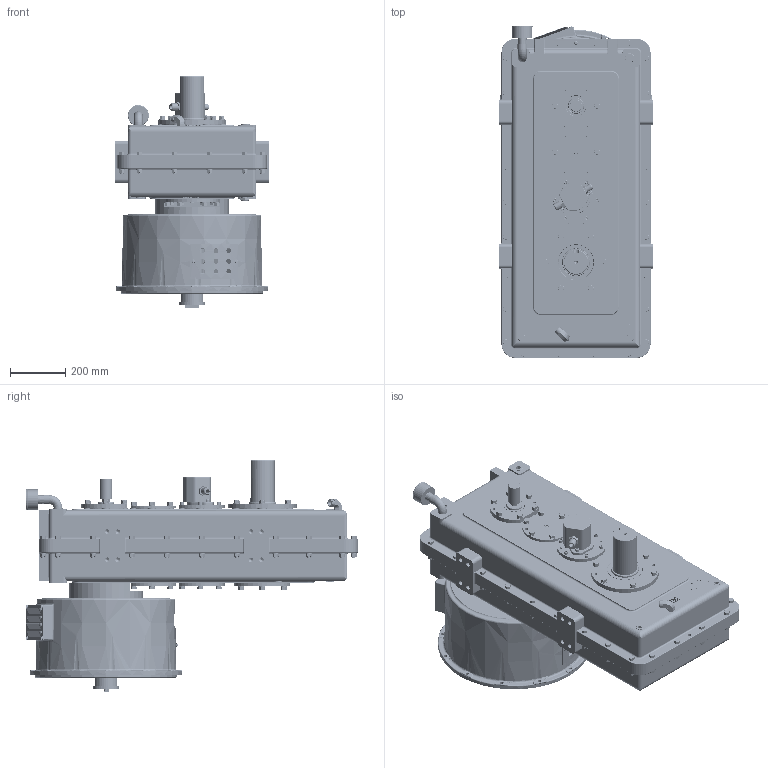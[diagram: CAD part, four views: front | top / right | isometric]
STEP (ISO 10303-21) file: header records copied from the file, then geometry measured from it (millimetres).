
FILE_DESCRIPTION (( 'STEP AP214' ), '1' );
FILE_NAME ('D170A181005.STEP', '2022-03-11T15:46:05', ( '' ), ( '' ), 'SwSTEP 2.0', 'SolidWorks 2021', '' );
FILE_SCHEMA (( 'AUTOMOTIVE_DESIGN' ));
Length unit declared in the file: inch
Products named in the file (61): DS90081A106.stp; NP266409-1.stp; DWL_50X1_25.stp; SR5100-231.stp; HHCSZ_50-13X1_25.stp; SHK22005.stp; PPSKG1_00-11_5.stp; D170043.stp; D170042.stp; RD144003_AF0.stp; d170a181005 rev 01.stp; PPSKM_75-14.stp; SHK22020.stp; HA-6-6-6-11_25.stp; D17-1-A-14_ASM.stp; PPSKG_50-14.stp; AVBF-16.stp; D170030.stp; ME12-CTX-S.stp; HHCSZ_63-11X1_75.stp; OS2_250X2_875-2.stp; SHCS_38-16X1_00.stp; D170011.stp; STC12-F5OX-S.stp; D170001B.stp; D181011.stp; D170A181005; CL-W15-OC-306.stp; HHCSZ_50-13X2_75.stp; SHK22007.stp; SHCS_50-13X2_25.stp; D144037.stp; LWZ_63.stp; LPPGP505-10CW.stp; D170013.stp; OS3_938X4_999-2.stp; SHK22920.stp; PTC6-6FTX-S.stp; D170009.stp; HHCSZ_38-16X_75.stp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
Assembly tree (274 placements, depth 4):
  D170A181005
    d170a181005 rev 01.stp
      D17-1-A-14_ASM.stp
        RD144003_AF0.stp
        D17-1-A-14_ASM-0.stp
      D170001.stp
      CL-W15-OC-306.stp
      HA-12-12-12-28.stp
      HA-6-6-6-11_25.stp  x2
      DWL_50X1_25.stp  x2
      D170009.stp
      D170042.stp
      PTC6-6FTX-S.stp  x2
      SR5100-231.stp
      D170011.stp  x3
      D170013.stp
      D170046.stp
      D170001B.stp
      D170010.stp
      LWZ_50.stp  x62
      HHCSZ_50-13X1_25.stp  x24
      D144102.stp
      ME12-CTX-S.stp
      RHSKCS_25-20X_50.stp  x6
      STEL1_00NPT90.stp
      AVBF-16.stp
      PPSKG1_00-11_5.stp  x3
      D144037.stp
      SG_75NPT-01.stp
      HHCSZ_50-13X1_50.stp  x12
      HNZ_50-13.stp  x26
      HHCSZ_50-13X2_75.stp  x26
      OS2_250X2_875-2.stp
      OS3_938X4_999-2.stp  x2
      PPSKG_25-18.stp
      SHCS_50-13X2_25.stp  x6
      LWZ_63.stp  x6
      HHCSZ_63-11X1_75.stp  x5
      PPSKM_75-14.stp  x2
      NP266409-1.stp
      DS90081A106.stp  x2
      SHK22020.stp  x9
      SHK22007.stp  x9
      SHK22005.stp  x9
      SHK22920.stp  x3
      SHK22907.stp  x3
      SHK22905.stp  x3
      D170030.stp
      SHCS_38-16X1_25.stp  x6
      LPPGP505-10CW.stp
      SHCS_38-16X1_00.stp  x2
      STC10-F5OX-S.stp
      STC12-F5OX-S.stp
      RU1115-000-001.stp
      D170044.stp
      PPSKG_50-14.stp
      PPSKG_38-18.stp  x4
      D170043.stp
      D181011.stp
      HHCSZ_38-16X_75.stp  x2
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Bounding box: 558.8 x 1201.71 x 839.15 mm (x, y, z)
Volume: 10910930.7 mm3; surface area: 7946914.8 mm2
Topology: 174 solids, 515 shells, 9095 faces, 22561 edges, 14369 vertices
Faces by surface type: cylinder 4273, plane 3219, cone 847, torus 422, bspline 286, sphere 48
Entity records: 201560 total; most frequent: CARTESIAN_POINT 82367, ORIENTED_EDGE 23718, DIRECTION 23633, EDGE_CURVE 12169, AXIS2_PLACEMENT_3D 8873, VERTEX_POINT 7777, VECTOR 5887, LINE 5887
